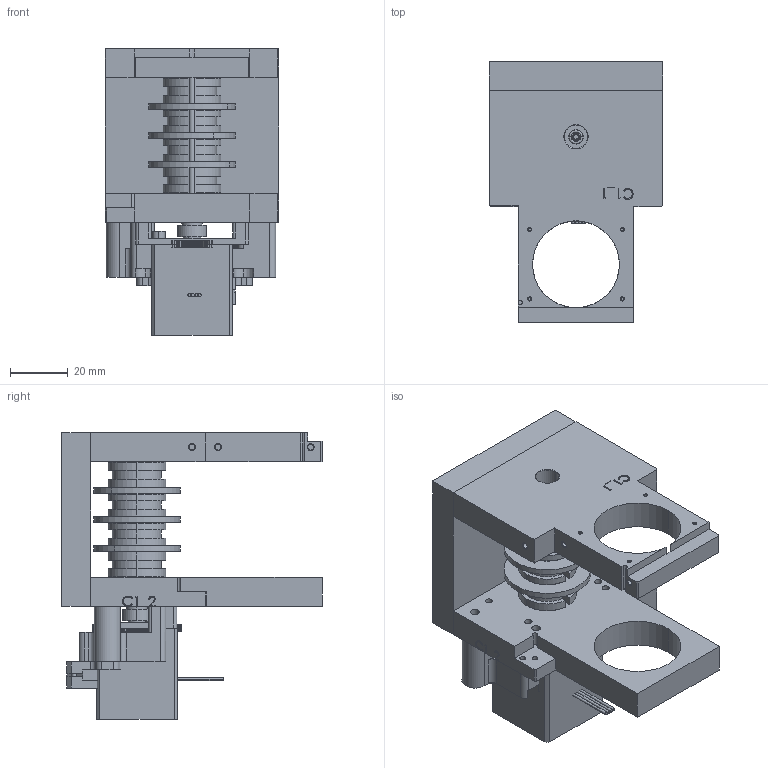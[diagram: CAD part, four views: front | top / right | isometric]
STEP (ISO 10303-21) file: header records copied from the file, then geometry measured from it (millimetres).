
FILE_DESCRIPTION (( 'STEP AP214' ), '1' );
FILE_NAME ('Assieme gruppo Nord.STEP', '2016-02-27T10:02:22', ( '' ), ( '' ), 'SwSTEP 2.0', 'SolidWorks 2012', '' );
FILE_SCHEMA (( 'AUTOMOTIVE_DESIGN' ));
Length unit declared in the file: millimetre
Products named in the file (33): spur gear_iso_ISO - Spur gear 0.3M 75T 20PA 2.5FW ---S75A75H50L4.0N; raccordo motore trascinato; platina riduttore_3; ISO 7046-1 Z M1,6 x 8 - 4.8 - Z; alberino D-N-S; C1_2_N; vite M2,5 x 6 brug; dist_NORD_1; pernetto rinvio; spur gear_iso_ISO - Spur gear 0.3M 100T 20PA 2.5FW ---S100A75H50L4.0N; pernetto centrale; Frontplatte_STF2818X0504; Endplatte_STF2818X0504; ass NORD dis_mot vert; C2; C1_1; Assieme mot Pamoco e flangia; dist_NORD_2; Assieme platina NordSud; spur gear_iso_ISO - Spur gear 0.3M 25T 20PA 2.5FW ---S25A75H50L3.0N; instrument ball bearing_68_am_AFBMA 12.1.4.1 - 0020-6 - 8,SI,NC,8_68; motore pamoco serie28; Stator_STF2818X0504; C8; Welle_STF2818X0504; C9; motore step STF2818X0504; spur gear_iso_ISO - Spur gear 0.3M 20T 20PA 2.5FW ---S20A75H50L2.0N; C10; Assieme gruppo Nord; spina d3x15; flngia pamoco; radial ball bearing_68_skf_SKF - 623 - 8,SI,NC,8_68
Assembly tree (41 placements, depth 4):
  Assieme gruppo Nord
    C1_1
    C2
    C1_2_N
    ass NORD dis_mot vert
      C8
      C9
      C10
      alberino D-N-S
    instrument ball bearing_68_am_AFBMA 12.1.4.1 - 0020-6 - 8,SI,NC,8_68  x2
    Assieme platina NordSud
      spur gear_iso_ISO - Spur gear 0.3M 20T 20PA 2.5FW ---S20A75H50L2.0N
      radial ball bearing_68_skf_SKF - 623 - 8,SI,NC,8_68  x2
      instrument ball bearing_68_am_AFBMA 12.1.4.1 - 0020-6 - 8,SI,NC,8_68
      motore step STF2818X0504
        Endplatte_STF2818X0504
        Frontplatte_STF2818X0504
        Stator_STF2818X0504
        ISO 7046-1 Z M1,6 x 8 - 4.8 - Z  x4
        Welle_STF2818X0504
      spur gear_iso_ISO - Spur gear 0.3M 100T 20PA 2.5FW ---S100A75H50L4.0N
      pernetto centrale
      platina riduttore_3
      pernetto rinvio
      spur gear_iso_ISO - Spur gear 0.3M 75T 20PA 2.5FW ---S75A75H50L4.0N
      spur gear_iso_ISO - Spur gear 0.3M 25T 20PA 2.5FW ---S25A75H50L3.0N
    Assieme mot Pamoco e flangia
      motore pamoco serie28
      flngia pamoco
    dist_NORD_1  x2
    dist_NORD_2  x2
    raccordo motore trascinato
    vite M2,5 x 6 brug  x2
    spina d3x15
Bounding box: 60 x 90 x 99 mm (x, y, z)
Volume: 163695.3 mm3; surface area: 71479.1 mm2
Topology: 38 solids, 38 shells, 2371 faces, 6375 edges, 4142 vertices
Faces by surface type: cylinder 1362, plane 539, cone 296, bspline 114, torus 60
Entity records: 78106 total; most frequent: CARTESIAN_POINT 20698, DIRECTION 11962, ORIENTED_EDGE 11012, EDGE_CURVE 5506, AXIS2_PLACEMENT_3D 4764, VERTEX_POINT 3596, CIRCLE 2788, VECTOR 2434
